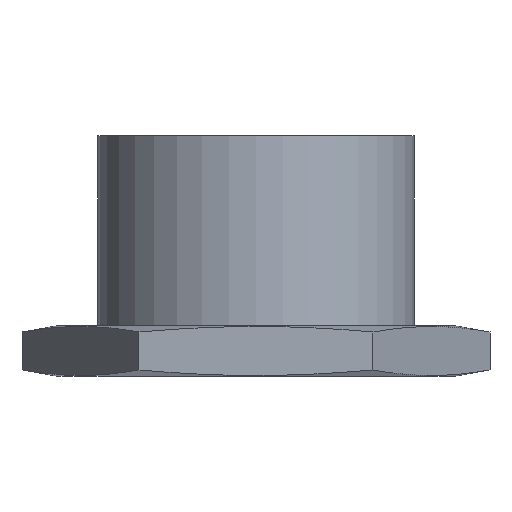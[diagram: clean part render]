
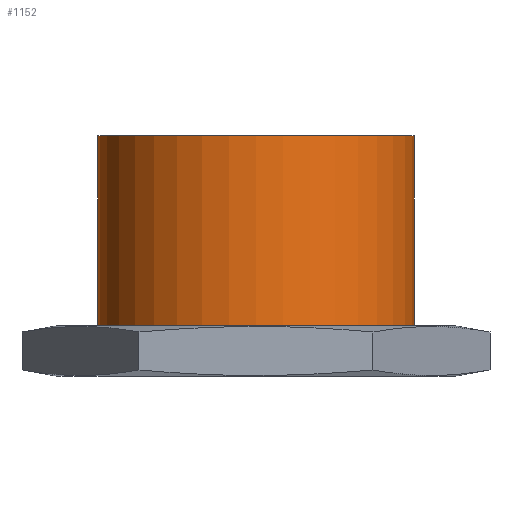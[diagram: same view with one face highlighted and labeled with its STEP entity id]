
A CAD part, front view. The second image highlights one B-rep face of the part: STEP entity #1152.
In plain terms, the highlighted cylindrical face has radius 12.5 mm (diameter 25 mm), a partial arc.
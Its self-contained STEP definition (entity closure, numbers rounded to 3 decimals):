
#55 = CARTESIAN_POINT ( 'NONE',  ( -12.5, 0., 19. ) ) ;
#142 = CARTESIAN_POINT ( 'NONE',  ( 12.5, 0., 19. ) ) ;
#176 = FACE_OUTER_BOUND ( 'NONE', #720, .T. ) ;
#216 = CARTESIAN_POINT ( 'NONE',  ( 12.5, 0., 19. ) ) ;
#217 = ORIENTED_EDGE ( 'NONE', *, *, #1860, .F. ) ;
#304 = CARTESIAN_POINT ( 'NONE',  ( 0., 0., 19. ) ) ;
#380 = CARTESIAN_POINT ( 'NONE',  ( -12.5, 0., 4. ) ) ;
#500 = CARTESIAN_POINT ( 'NONE',  ( 0., 0., 4. ) ) ;
#515 = DIRECTION ( 'NONE',  ( 0., 0., 1. ) ) ;
#525 = DIRECTION ( 'NONE',  ( 0., 0., -1. ) ) ;
#653 = DIRECTION ( 'NONE',  ( -1., 0., 0. ) ) ;
#672 = EDGE_CURVE ( 'NONE', #2061, #727, #1470, .T. ) ;
#720 = EDGE_LOOP ( 'NONE', ( #217, #1587, #1897, #1273 ) ) ;
#727 = VERTEX_POINT ( 'NONE', #142 ) ;
#733 = CARTESIAN_POINT ( 'NONE',  ( 12.5, 0., 4. ) ) ;
#809 = VECTOR ( 'NONE', #1011, 1000. ) ;
#841 = AXIS2_PLACEMENT_3D ( 'NONE', #1000, #525, #653 ) ;
#861 = VERTEX_POINT ( 'NONE', #733 ) ;
#1000 = CARTESIAN_POINT ( 'NONE',  ( 0., 0., 19. ) ) ;
#1011 = DIRECTION ( 'NONE',  ( 0., 0., -1. ) ) ;
#1038 = CIRCLE ( 'NONE', #1298, 12.5 ) ;
#1075 = DIRECTION ( 'NONE',  ( 0., 0., 1. ) ) ;
#1127 = CARTESIAN_POINT ( 'NONE',  ( -12.5, 0., 19. ) ) ;
#1136 = DIRECTION ( 'NONE',  ( 1., 0., 0. ) ) ;
#1152 = ADVANCED_FACE ( 'NONE', ( #176 ), #1947, .T. ) ;
#1212 = VERTEX_POINT ( 'NONE', #380 ) ;
#1228 = EDGE_CURVE ( 'NONE', #1212, #861, #1038, .T. ) ;
#1261 = AXIS2_PLACEMENT_3D ( 'NONE', #304, #1075, #1748 ) ;
#1273 = ORIENTED_EDGE ( 'NONE', *, *, #1228, .T. ) ;
#1298 = AXIS2_PLACEMENT_3D ( 'NONE', #500, #515, #1136 ) ;
#1364 = DIRECTION ( 'NONE',  ( 0., 0., -1. ) ) ;
#1377 = LINE ( 'NONE', #55, #2048 ) ;
#1459 = EDGE_CURVE ( 'NONE', #2061, #1212, #1377, .T. ) ;
#1470 = CIRCLE ( 'NONE', #1261, 12.5 ) ;
#1587 = ORIENTED_EDGE ( 'NONE', *, *, #672, .F. ) ;
#1748 = DIRECTION ( 'NONE',  ( 1., 0., 0. ) ) ;
#1807 = LINE ( 'NONE', #216, #809 ) ;
#1860 = EDGE_CURVE ( 'NONE', #727, #861, #1807, .T. ) ;
#1897 = ORIENTED_EDGE ( 'NONE', *, *, #1459, .T. ) ;
#1947 = CYLINDRICAL_SURFACE ( 'NONE', #841, 12.5 ) ;
#2048 = VECTOR ( 'NONE', #1364, 1000. ) ;
#2061 = VERTEX_POINT ( 'NONE', #1127 ) ;
